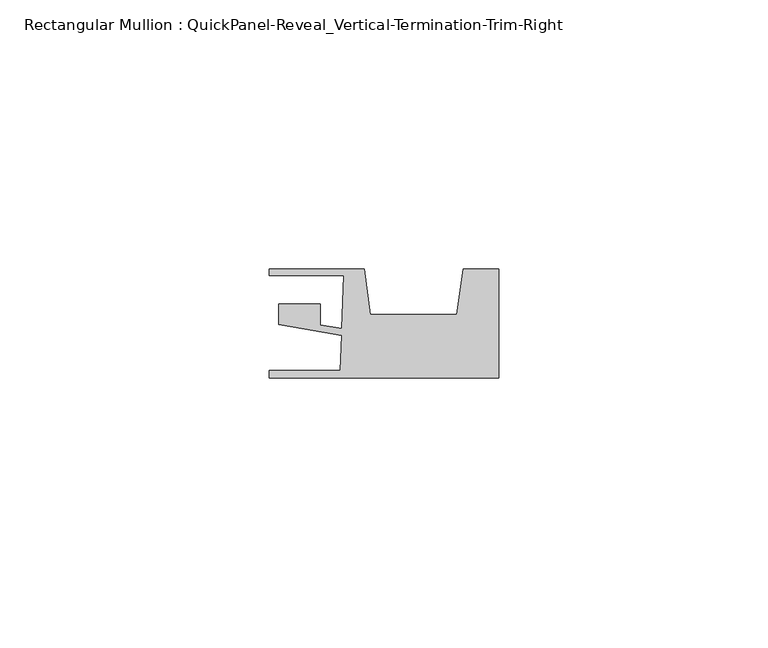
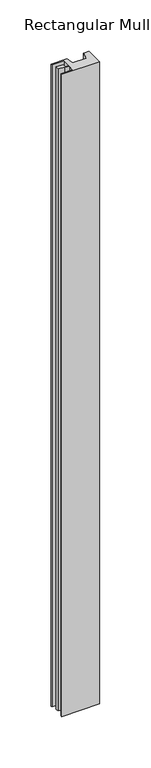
"""IFC4 building model written with IfcOpenShell, lengths in millimetres: member geometry, Rectangular Mullion : QuickPanel-Reveal_Vertical-Termination-Trim-Right."""

from ifc_helpers import new_model, si_unit, frame, origin, place, context, project, spatial, polyline, outline, extrude, source, transform, mapped, element, save


def rectangular_mullion_quickpanel_reveal_vertical_termination_18882283(model_context):
    return source(origin(), model_context, "Body", "SweptSolid", [
        extrude(outline(polyline([(-42.7011763, -8.095605), (-42.7011763, -6.6935423), (-29.4602636, -6.6935423), (-29.2334784, -0.1992641), (-34.4837593, 0.7008023), (-40.919092, 1.8040245), (-40.919092, 5.6493034), (-33.1743189, 5.6493034), (-33.1743189, 1.7648465), (-29.1887499, 1.0815922), (-28.8448229, 10.9303752), (-42.7011763, 10.9303752), (-42.7011763, 12.1803727), (-25.0522037, 12.1803727), (-23.8634859, 3.7222065), (-7.8503594, 3.7222065), (-6.6616417, 12.1803727), (0.0, 12.1803727), (0.0, -8.095605), (-42.7011763, -8.095605)])), frame((0.0, 0.0, -762.0), z_axis=(0.0, 0.0, 1.0), x_axis=(1.0, 0.0, 0.0)), (0.0, 0.0, 1.0), 762.0),
    ])


if __name__ == "__main__":
    model = new_model("IFC4")
    model_context = context("Model", 3, world=origin())
    ifc_project = project(units=[si_unit("LENGTHUNIT", "METRE", prefix="MILLI")], contexts=[model_context])
    site = spatial("IfcSite", under=ifc_project)
    building = spatial("IfcBuilding", under=site)
    placement = place(None, origin())
    rectangular_mullion_quickpanel_reveal_vertical_termination_shape = rectangular_mullion_quickpanel_reveal_vertical_termination_18882283(model_context)
    element("IfcMember", 1, ObjectType="Rectangular Mullion : QuickPanel-Reveal_Vertical-Termination-Trim-Right", at=placement, inside=building, context=model_context, shape_type="MappedRepresentation", body=[
        mapped(rectangular_mullion_quickpanel_reveal_vertical_termination_shape, transform((0.0, 0.0, 0.0), x_axis=(1.0, 0.0, 0.0), y_axis=(0.0, 1.0, 0.0), z_axis=(0.0, 0.0, 1.0))),
    ])
    save(model, "model.ifc")
